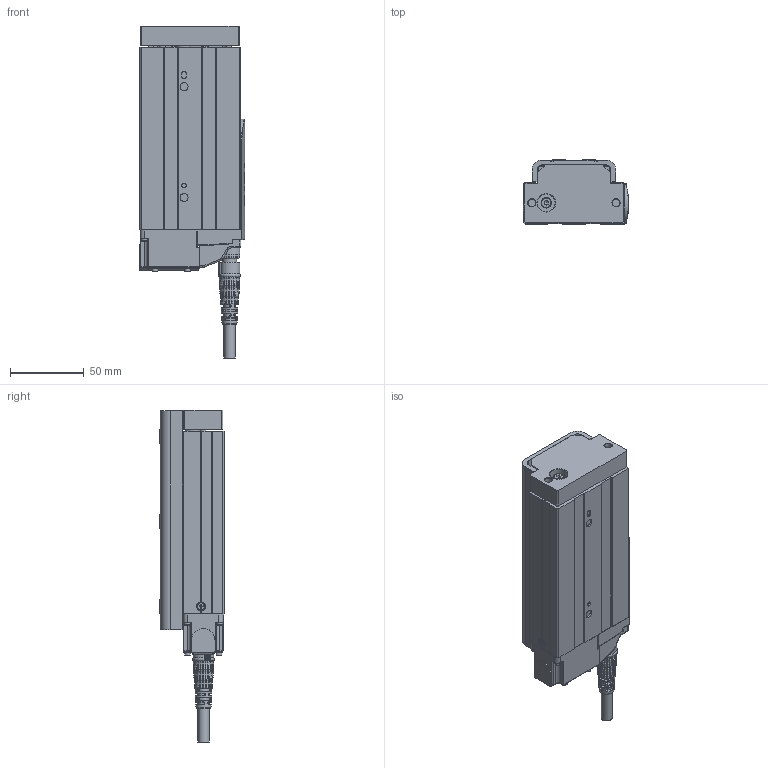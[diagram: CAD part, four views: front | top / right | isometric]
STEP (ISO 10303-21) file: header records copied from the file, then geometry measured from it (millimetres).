
FILE_DESCRIPTION(/* description */ ('STEP AP203'),/* implementation_level */ '2;1');
FILE_NAME(/* name */ 'D:\暫\2025.02.06 CSG 3D\CSG25-B\CSG25-S75-B.stp',/* time_stamp */ '2025-02-08T10:38:15+08:00',/* author */ ('T10033'),/* organization */ (''),/* preprocessor_version */ 'ST-DEVELOPER v18.1',/* originating_system */ 'Autodesk Inventor 2020',/* authorisation */ '');
FILE_SCHEMA (('CONFIG_CONTROL_DESIGN'));
Products named in the file (26): CSG25-50行程-煞車; ©T©wªO-·¥­­¾×ª
O4-M2¤ú; M12 -14PIN  ªOºÝ-²Ä¤@ºØ
³W®æ; countersunk flat head cross recess screw_iso_ISO 7046-1 - M2.5 x 4 - 
Z - 4N; ¶ì½¦ºÝ»-L¼Ë¦¡(TOYO)-°
t¦XPCB(·Ù¨®¥Î)-DF3±µÀYª½
±µ©ñ¤Jª©; IS 2269 - M2 x 10; ISO 4762 - M2.5 x 6ISO; PCB; M12-14PIN 線端180度接頭-05中繼線_
MIR; 43T34 TFSDR_Shrinkwrap_1; T632T6W34; 22035-000061(G4ªo¯]); countersunk flat head cross recess screw_iso_ISO 7046-1 - M2.5 x 4 - 
Z - 4N_1; ©T©wªO-·¥­­¾×ª
O4-M2¤ú_1; socket head cap screw_iso_ISO 4762 M2.5 x 6 - 6N; socket head cap screw_iso_ISO 4762 M2.5 x 8 - 8N; socket head cap screw_iso_ISO 4762 M2 x 12 - 12N; M12 -14PIN  ªOºÝ-²Ä¤@ºØ
³W®æ_1; CSG25-50¥»Åé3ª©-ªo¤Õ
½Õ¾ã¨¤«×; CSG25-Carriage-newtype; Solid1-2; 12003-000221-­×§ï; 22024-000496; CNS 3932 - M 4 x 0.7 x 12; socket head cap screw_iso_ISO 4762 M2.5 x 5 - 5N; CNS 4558 - M5 x 0.8 x 12
Assembly tree (37 placements, depth 3):
  CSG25-50行程-煞車
    ©T©wªO-·¥­­¾×ª
O4-M2¤ú
    M12 -14PIN  ªOºÝ-²Ä¤@ºØ
³W®æ
    countersunk flat head cross recess screw_iso_ISO 7046-1 - M2.5 x 4 - 
Z - 4N
    ¶ì½¦ºÝ»-L¼Ë¦¡(TOYO)-°
t¦XPCB(·Ù¨®¥Î)-DF3±µÀYª½
±µ©ñ¤Jª©
    IS 2269 - M2 x 10  x2
    ISO 4762 - M2.5 x 6ISO  x2
    PCB
    M12-14PIN 線端180度接頭-05中繼線_
MIR
    43T34 TFSDR_Shrinkwrap_1
    T632T6W34
      22035-000061(G4ªo¯])
      socket head cap screw_iso_ISO 4762 M2.5 x 8 - 8N  x8
      countersunk flat head cross recess screw_iso_ISO 7046-1 - M2.5 x 4 - 
Z - 4N_1
      ©T©wªO-·¥­­¾×ª
O4-M2¤ú_1
      socket head cap screw_iso_ISO 4762 M2.5 x 6 - 6N  x2
      socket head cap screw_iso_ISO 4762 M2 x 12 - 12N  x2
      M12 -14PIN  ªOºÝ-²Ä¤@ºØ
³W®æ_1
      CSG25-50¥»Åé3ª©-ªo¤Õ
½Õ¾ã¨¤«×
      CSG25-Carriage-newtype
      Solid1-2
      12003-000221-­×§ï
      22024-000496
      CNS 3932 - M 4 x 0.7 x 12
      socket head cap screw_iso_ISO 4762 M2.5 x 5 - 5N
      CNS 4558 - M5 x 0.8 x 12  x2
Bounding box: 71.25 x 43.5 x 224.6 mm (x, y, z)
Volume: 370259.1 mm3; surface area: 100620.9 mm2
Topology: 54 solids, 58 shells, 3045 faces, 8288 edges, 5488 vertices
Faces by surface type: plane 1509, cylinder 586, bspline 491, cone 338, torus 108, sphere 13
Full cylindrical faces by diameter (mm): 0.6 x28, 0.65 x14, 0.8 x2, 1 x14, 1.567 x1, 1.6 x4, 2 x8, 2.05 x5, 2.5 x20, 2.9 x2, 3 x3, 3.8 x10, 4 x1, 4.134 x8, 4.5 x15, 4.7 x2, 4.95 x1, 5 x6, 5.2 x1, 5.3 x2, 5.4 x4, 5.5 x4, 6 x3, 7 x1, 7.5 x1, 8 x1, 8.9 x1, 9 x12, 9.5 x2, 9.6 x1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
Entity records: 106710 total; most frequent: CARTESIAN_POINT 33128, ORIENTED_EDGE 15359, DIRECTION 14429, EDGE_CURVE 7680, AXIS2_PLACEMENT_3D 5291, VERTEX_POINT 5110, LINE 3847, VECTOR 3847
